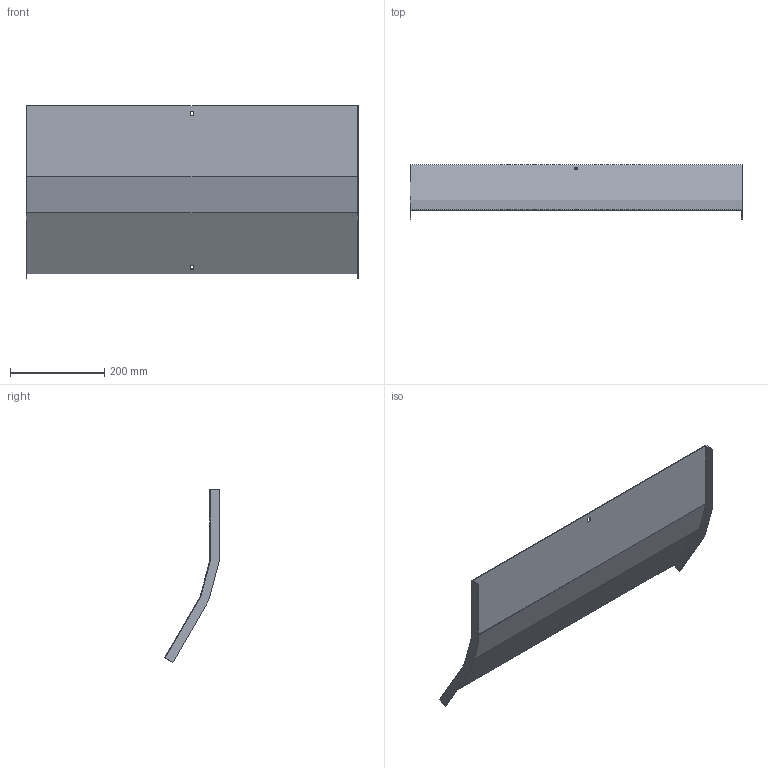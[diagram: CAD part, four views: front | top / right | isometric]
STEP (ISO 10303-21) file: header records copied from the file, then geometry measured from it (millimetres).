
FILE_DESCRIPTION (( 'STEP AP214' ), '1' );
FILE_NAME ('A2X32N3R700X.step', '2025-03-20T09:39:06', ( '' ), ( '' ), 'SwSTEP 2.0', 'SolidWorks 2023', '' );
FILE_SCHEMA (( 'AUTOMOTIVE_DESIGN' ));
Length unit declared in the file: millimetre
Products named in the file (1): A2X32N3R700X
Bounding box: 703 x 115.32 x 365.74 mm (x, y, z)
Volume: 420690.2 mm3; surface area: 564399.1 mm2
Topology: 1 solids, 1 shells, 26 faces, 72 edges, 48 vertices
Faces by surface type: plane 26
Entity records: 847 total; most frequent: CARTESIAN_POINT 147, ORIENTED_EDGE 144, DIRECTION 126, LINE 72, EDGE_CURVE 72, VECTOR 72, VERTEX_POINT 48, EDGE_LOOP 30
